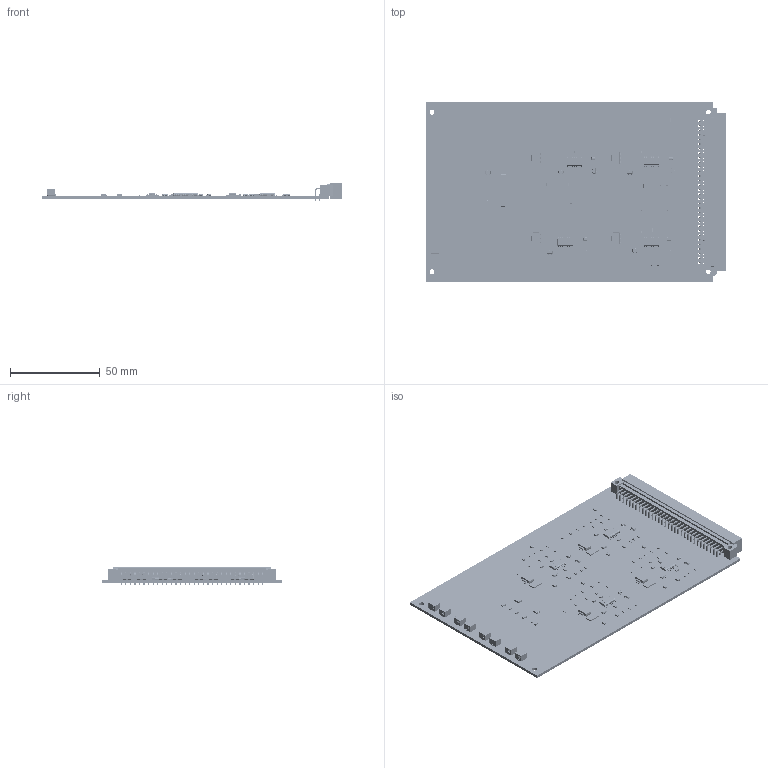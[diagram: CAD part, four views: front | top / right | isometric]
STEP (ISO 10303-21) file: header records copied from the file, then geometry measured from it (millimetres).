
FILE_DESCRIPTION(/* description */ (''),/* implementation_level */ '2;1');
FILE_NAME(/* name */ 'LNF-PS4_EU2_R3_simple.stp',/* time_stamp */ '2025-06-24T14:54:20+02:00',/* author */ ('SlavkoDejanovic'),/* organization */ (''),/* preprocessor_version */ 'ST-DEVELOPER v20',/* originating_system */ 'Autodesk Inventor 2025',/* authorisation */ '');
FILE_SCHEMA (('AUTOMOTIVE_DESIGN { 1 0 10303 214 3 1 1 }'));
Products named in the file (14): LNF-PS4_EU2_R3_simple; LNF-PS4_EU2_R3_BOARD; SOT-223_FZT491ATA_PS4_EU2; SOT-363_BAS70XY_PS4_EU2; SOT-23-3_1P4X3P040_ONS_BAS70TP-_PS4_EU2; R_0603_Yageo_R_0603_Generic_PS4_EU2; Trimmer_10kOhm_J_Lead_Side_Trimmer_10kOhm_J_Lead_Side_PS4_EU2; R_2512_GENERIC_R_2512_Generic_PS4_EU2; D0014A_N_TL074BCDR_PS4_EU2; DBZ0003A_M_CMP-0366-01075_PS4_EU2; DBZ0003A_M_CMP-0366-01132-_PS4_EU2; C_0805_Generic_C_Unpolarized_Generic_1; 1411_(3528_Metric)_-__1210_Tantalum_Capacitor_LNF-PS4_EU2; Connector_DIN-41612_RA_Connector_DIN-41612_RA_LNF-PS4_EU2
Assembly tree (118 placements, depth 2):
  LNF-PS4_EU2_R3_simple
    LNF-PS4_EU2_R3_BOARD
    SOT-223_FZT491ATA_PS4_EU2  x4
    SOT-363_BAS70XY_PS4_EU2  x4
    SOT-23-3_1P4X3P040_ONS_BAS70TP-_PS4_EU2  x8
    R_0603_Yageo_R_0603_Generic_PS4_EU2  x54
    Trimmer_10kOhm_J_Lead_Side_Trimmer_10kOhm_J_Lead_Side_PS4_EU2  x8
    R_2512_GENERIC_R_2512_Generic_PS4_EU2  x4
    D0014A_N_TL074BCDR_PS4_EU2  x4
    DBZ0003A_M_CMP-0366-01075_PS4_EU2
    DBZ0003A_M_CMP-0366-01132-_PS4_EU2
    C_0805_Generic_C_Unpolarized_Generic_1  x26
    1411_(3528_Metric)_-__1210_Tantalum_Capacitor_LNF-PS4_EU2  x2
    Connector_DIN-41612_RA_Connector_DIN-41612_RA_LNF-PS4_EU2
Bounding box: 167.34 x 100.03 x 9.56 mm (x, y, z)
Volume: 30794.5 mm3; surface area: 43922.5 mm2
Topology: 564 solids, 564 shells, 15526 faces, 36154 edges, 20784 vertices
Faces by surface type: plane 6859, cylinder 5033, sphere 1424, torus 1120, bspline 1066, cone 24
Full cylindrical faces by diameter (mm): 0.152 x8, 0.889 x8, 1.016 x8, 1.1 x64, 1.194 x4, 1.524 x8, 1.626 x8, 2.794 x2, 2.9 x2
Entity records: 82030 total; most frequent: CARTESIAN_POINT 16811, ORIENTED_EDGE 13256, DIRECTION 12860, EDGE_CURVE 6628, LINE 5250, VECTOR 5250, VERTEX_POINT 4251, AXIS2_PLACEMENT_3D 3805
